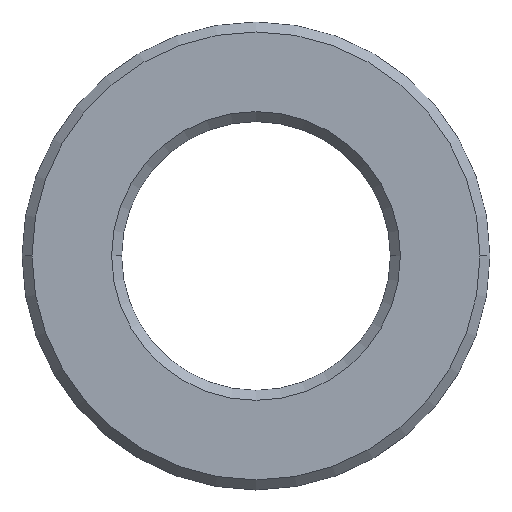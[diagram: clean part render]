
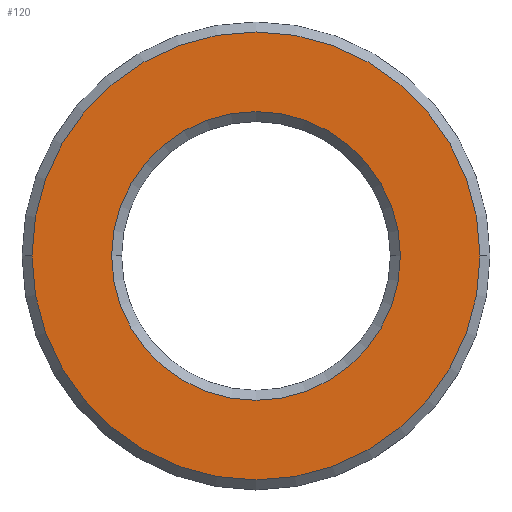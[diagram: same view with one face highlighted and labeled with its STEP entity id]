
A CAD part, top view. The second image highlights one B-rep face of the part: STEP entity #120.
In plain terms, the highlighted planar face has unit normal (0, 0, 1).
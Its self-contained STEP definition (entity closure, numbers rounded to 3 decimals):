
#61=AXIS2_PLACEMENT_3D('Circle Axis2P3D',#59,#60,$) ;
#83=AXIS2_PLACEMENT_3D('Circle Axis2P3D',#81,#82,$) ;
#96=AXIS2_PLACEMENT_3D('Plane Axis2P3D',#93,#94,#95) ;
#104=AXIS2_PLACEMENT_3D('Circle Axis2P3D',#102,#103,$) ;
#113=AXIS2_PLACEMENT_3D('Circle Axis2P3D',#111,#112,$) ;
#40=CARTESIAN_POINT('Vertex',(2.25,0.,0.5)) ;
#56=CARTESIAN_POINT('Vertex',(-2.25,0.,0.5)) ;
#59=CARTESIAN_POINT('Axis2P3D Location',(0.,0.,0.5)) ;
#81=CARTESIAN_POINT('Axis2P3D Location',(0.,0.,0.5)) ;
#93=CARTESIAN_POINT('Axis2P3D Location',(0.,0.,0.5)) ;
#102=CARTESIAN_POINT('Axis2P3D Location',(0.,0.,0.5)) ;
#106=CARTESIAN_POINT('Vertex',(1.45,0.,0.5)) ;
#108=CARTESIAN_POINT('Vertex',(-1.45,0.,0.5)) ;
#111=CARTESIAN_POINT('Axis2P3D Location',(0.,0.,0.5)) ;
#60=DIRECTION('Axis2P3D Direction',(0.,0.,1.)) ;
#82=DIRECTION('Axis2P3D Direction',(0.,0.,1.)) ;
#94=DIRECTION('Axis2P3D Direction',(0.,0.,1.)) ;
#95=DIRECTION('Axis2P3D XDirection',(1.,0.,0.)) ;
#103=DIRECTION('Axis2P3D Direction',(0.,0.,1.)) ;
#112=DIRECTION('Axis2P3D Direction',(0.,0.,1.)) ;
#99=ORIENTED_EDGE('',*,*,#63,.T.) ;
#100=ORIENTED_EDGE('',*,*,#85,.T.) ;
#117=ORIENTED_EDGE('',*,*,#110,.F.) ;
#118=ORIENTED_EDGE('',*,*,#115,.F.) ;
#119=FACE_BOUND('',#116,.T.) ;
#120=ADVANCED_FACE('Corps principal',(#101,#119),#97,.T.) ;
#62=CIRCLE('generated circle',#61,2.25) ;
#84=CIRCLE('generated circle',#83,2.25) ;
#105=CIRCLE('generated circle',#104,1.45) ;
#114=CIRCLE('generated circle',#113,1.45) ;
#63=EDGE_CURVE('',#41,#57,#62,.T.) ;
#85=EDGE_CURVE('',#57,#41,#84,.T.) ;
#110=EDGE_CURVE('',#107,#109,#105,.T.) ;
#115=EDGE_CURVE('',#109,#107,#114,.T.) ;
#98=EDGE_LOOP('',(#99,#100)) ;
#116=EDGE_LOOP('',(#117,#118)) ;
#101=FACE_OUTER_BOUND('',#98,.T.) ;
#97=PLANE('',#96) ;
#41=VERTEX_POINT('',#40) ;
#57=VERTEX_POINT('',#56) ;
#107=VERTEX_POINT('',#106) ;
#109=VERTEX_POINT('',#108) ;
